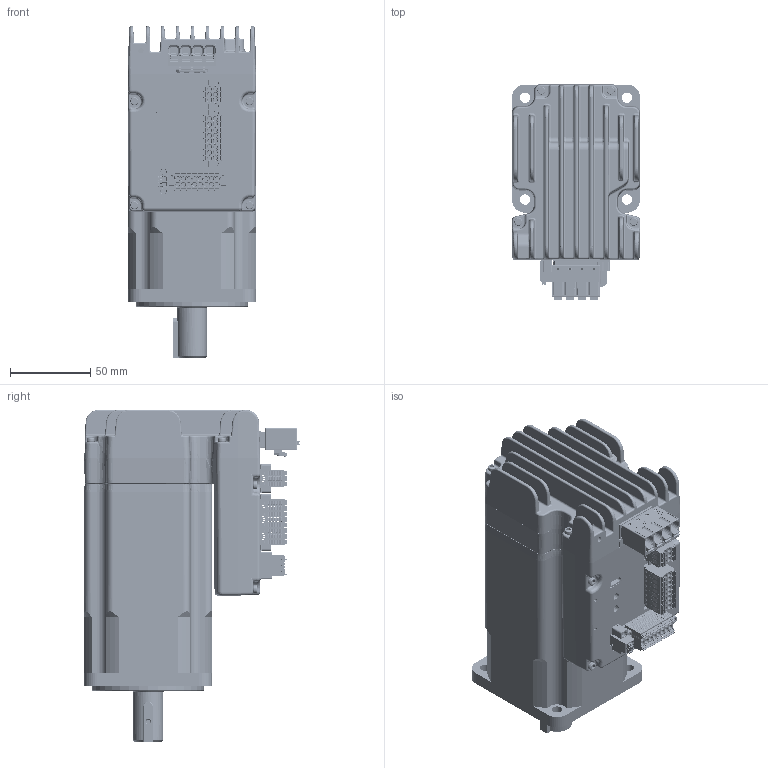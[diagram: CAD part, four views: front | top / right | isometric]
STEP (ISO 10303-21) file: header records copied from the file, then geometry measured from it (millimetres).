
FILE_DESCRIPTION((''),'2;1');
FILE_NAME('ISMD80D-DQ-AA','2025-10-31T16:45:56',('RD0060'),(''),'CREO PARAMETRIC BY PTC INC, 2016510','CREO PARAMETRIC BY PTC INC, 2016510','');
FILE_SCHEMA(('CONFIG_CONTROL_DESIGN'));
Products named in the file (1): ISMD80D-DQ-AA
Bounding box: 80.6 x 134.89 x 207.5 mm (x, y, z)
Surface area: 255729.2 mm2 (no closed solid volume)
Topology: 0 solids, 419 shells, 7868 faces, 25506 edges, 17640 vertices
Faces by surface type: plane 3966, cylinder 1828, bspline 823, torus 710, cone 392, sphere 128, extrusion 21
Entity records: 318329 total; most frequent: CARTESIAN_POINT 102927, DIRECTION 43762, ORIENTED_EDGE 41318, EDGE_CURVE 25288, VERTEX_POINT 17639, VECTOR 15198, LINE 15177, AXIS2_PLACEMENT_3D 14282
